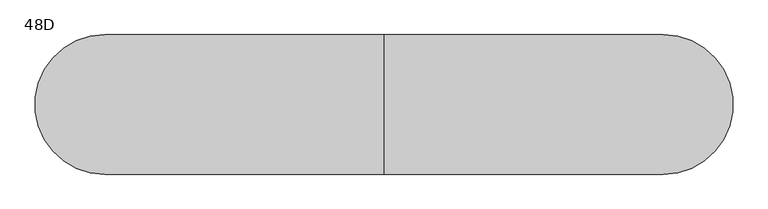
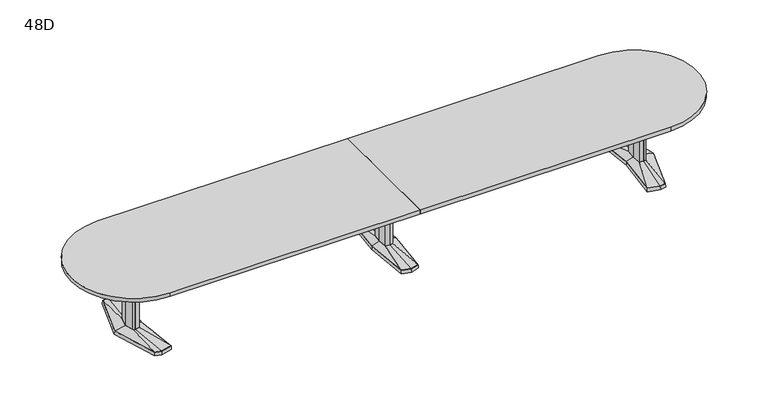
"""IFC4 building model written with IfcOpenShell, lengths in millimetres: furniture geometry, Coalesse_AM_Table_Conference_ETable2_Racetrack_20ft_AluminiumBase : 48D."""

from ifc_helpers import new_model, si_unit, point, frame, frame_2d, origin, place, context, project, spatial, polyline, circle_curve, trimmed, segment, composite_curve, outline, extrude, faceted_brep, source, transform, mapped, element, save
from ifc_brep_helpers import plane_surface, spline_surface, advanced_brep


def furniture_48d_e1b3172b(model_context):
    return source(origin(), model_context, "Body", "SolidModel", [
        faceted_brep([(-81.2333791, -433.8053819, 38.1), (0.0, -455.556576, 38.1), (81.2333791, -433.8053819, 38.1), (119.0564774, 0.0, 38.1), (81.2333791, 433.8053819, 38.1), (0.0, 455.556576, 38.1), (-81.2333791, 433.8053819, 38.1), (-119.0564774, 0.0, 38.1), (-82.7182795, -435.0512063, 3.175), (-120.65, 0.0, 3.175), (-82.7182795, 435.0512063, 3.175), (0.0, 457.2, 3.175), (82.7182795, 435.0512063, 3.175), (120.65, 0.0, 3.175), (82.7182795, -435.0512063, 3.175), (0.0, -457.2, 3.175), (0.0, 429.2617927, 3.175), (-77.9676806, 408.3850278, 3.175), (-74.7019821, 382.9646737, 3.175), (0.0, 402.9670094, 3.175), (74.7019821, 382.9646737, 3.175), (77.9676806, 408.3850278, 3.175), (0.0, -429.2617927, 3.175), (77.9676806, -408.3850278, 3.175), (74.7019821, -382.9646737, 3.175), (0.0, -402.9670094, 3.175), (-74.7019821, -382.9646737, 3.175), (-77.9676806, -408.3850278, 3.175), (-71.8574262, 114.6326257, 3.175), (-82.5426076, 0.0, 3.175), (-71.8574262, -114.6326257, 3.175), (0.0, -133.8761372, 3.175), (71.8574262, -114.6326257, 3.175), (82.5426076, 0.0, 3.175), (71.8574262, 114.6326257, 3.175), (0.0, 133.8761372, 3.175), (0.0, 429.2617927, 0.0), (77.9676806, 408.3850278, 0.0), (74.7019821, 382.9646737, 0.0), (0.0, 402.9670094, 0.0), (-74.7019821, 382.9646737, 0.0), (-77.9676806, 408.3850278, 0.0), (0.0, -429.2617927, 0.0), (-77.9676806, -408.3850278, 0.0), (-74.7019821, -382.9646737, 0.0), (0.0, -402.9670094, 0.0), (74.7019821, -382.9646737, 0.0), (77.9676806, -408.3850278, 0.0), (-71.8574262, 114.6326257, 0.0), (0.0, 133.8761372, 0.0), (71.8574262, 114.6326257, 0.0), (82.5426076, 0.0, 0.0), (71.8574262, -114.6326257, 0.0), (0.0, -133.8761372, 0.0), (-71.8574262, -114.6326257, 0.0), (-82.5426076, 0.0, 0.0)], [[[0, 1, 2, 3, 4, 5, 6, 7]], [[8, 9, 10, 11, 12, 13, 14, 15], [16, 17, 18, 19, 20, 21], [22, 23, 24, 25, 26, 27], [28, 29, 30, 31, 32, 33, 34, 35]], [[1, 0, 8, 15]], [[2, 1, 15, 14]], [[3, 2, 14, 13]], [[4, 3, 13, 12]], [[5, 4, 12, 11]], [[6, 5, 11, 10]], [[7, 6, 10, 9]], [[0, 7, 9, 8]], [[36, 37, 38, 39, 40, 41]], [[42, 43, 44, 45, 46, 47]], [[48, 49, 50, 51, 52, 53, 54, 55]], [[36, 41, 17, 16]], [[41, 40, 18, 17]], [[40, 39, 19, 18]], [[39, 38, 20, 19]], [[38, 37, 21, 20]], [[37, 36, 16, 21]], [[42, 47, 23, 22]], [[47, 46, 24, 23]], [[46, 45, 25, 24]], [[45, 44, 26, 25]], [[44, 43, 27, 26]], [[43, 42, 22, 27]], [[48, 55, 29, 28]], [[55, 54, 30, 29]], [[54, 53, 31, 30]], [[53, 52, 32, 31]], [[52, 51, 33, 32]], [[51, 50, 34, 33]], [[50, 49, 35, 34]], [[49, 48, 28, 35]]]),
        faceted_brep([(-36.3832834, 84.6900825, 698.5), (-44.2774487, 0.0, 698.5), (-36.3832834, -84.6900825, 698.5), (0.0, -94.4335728, 698.5), (36.3832834, -84.6900825, 698.5), (44.2774487, 0.0, 698.5), (36.3832834, 84.6900825, 698.5), (0.0, 94.4335728, 698.5), (-36.3832834, 84.6900825, 63.5), (0.0, 94.4335728, 63.5), (36.3832834, 84.6900825, 63.5), (44.2774487, 0.0, 63.5), (36.3832834, -84.6900825, 63.5), (0.0, -94.4335728, 63.5), (-36.3832834, -84.6900825, 63.5), (-44.2774487, 0.0, 63.5)], [[[0, 1, 2, 3, 4, 5, 6, 7]], [[8, 9, 10, 11, 12, 13, 14, 15]], [[1, 0, 8, 15]], [[2, 1, 15, 14]], [[3, 2, 14, 13]], [[4, 3, 13, 12]], [[5, 4, 12, 11]], [[6, 5, 11, 10]], [[7, 6, 10, 9]], [[0, 7, 9, 8]]]),
        advanced_brep(
        [(-36.3832834, 84.6900825, 63.5), (-44.2774487, 0.0, 63.5), (-36.3832834, -84.6900825, 63.5), (0.0, -94.4335728, 63.5), (36.3832834, -84.6900825, 63.5), (44.2774487, 0.0, 63.5), (36.3832834, 84.6900825, 63.5), (0.0, 94.4335728, 63.5), (-81.2333791, 433.8053819, 38.1), (0.0, 455.556576, 38.1), (81.2333791, 433.8053819, 38.1), (119.0564774, 0.0, 38.1), (81.2333791, -433.8053819, 38.1), (0.0, -455.556576, 38.1), (-81.2333791, -433.8053819, 38.1), (-119.0564774, 0.0, 38.1)],
        [
            (0, 1),
            (1, 2),
            (2, 3),
            (3, 4),
            (4, 5),
            (5, 6),
            (6, 7),
            (7, 0),
            (8, 9),
            (9, 10),
            (10, 11),
            (11, 12),
            (12, 13),
            (13, 14),
            (14, 15),
            (15, 8),
            (15, 1),
            (0, 8),
            (14, 2),
            (13, 3),
            (12, 4),
            (11, 5),
            (10, 6),
            (9, 7),
        ],
        [
            plane_surface(frame((0.0, 0.0, 63.5), z_axis=(0.0, 0.0, 1.0000000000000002), x_axis=(-0.9659615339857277, -0.25868574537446, 0.0))),
            plane_surface(frame((0.0, 0.0, 38.1), z_axis=(0.0, 0.0, -1.0000000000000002), x_axis=(-0.9659615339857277, -0.25868574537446, 0.0))),
            spline_surface(1, 1, [[(-81.2333791, 433.8053819, 38.1), (-36.3832834, 84.6900825, 63.5)], [(-119.0564774, 0.0, 38.1), (-44.2774487, 0.0, 63.5)]], [2, 2], [2, 2], [0.0, 1.0], [0.0, 1.0]),
            spline_surface(1, 1, [[(-119.0564774, 0.0, 38.1), (-44.2774487, 0.0, 63.5)], [(-81.2333791, -433.8053819, 38.1), (-36.3832834, -84.6900825, 63.5)]], [2, 2], [2, 2], [0.0, 1.0], [0.0, 1.0]),
            spline_surface(1, 1, [[(-81.2333791, -433.8053819, 38.1), (-36.3832834, -84.6900825, 63.5)], [(0.0, -455.556576, 38.1), (0.0, -94.4335728, 63.5)]], [2, 2], [2, 2], [0.0, 1.0], [0.0, 1.0]),
            spline_surface(1, 1, [[(0.0, -455.556576, 38.1), (0.0, -94.4335728, 63.5)], [(81.2333791, -433.8053819, 38.1), (36.3832834, -84.6900825, 63.5)]], [2, 2], [2, 2], [0.0, 1.0], [0.0, 1.0]),
            spline_surface(1, 1, [[(81.2333791, -433.8053819, 38.1), (36.3832834, -84.6900825, 63.5)], [(119.0564774, 0.0, 38.1), (44.2774487, 0.0, 63.5)]], [2, 2], [2, 2], [0.0, 1.0], [0.0, 1.0]),
            spline_surface(1, 1, [[(119.0564774, 0.0, 38.1), (44.2774487, 0.0, 63.5)], [(81.2333791, 433.8053819, 38.1), (36.3832834, 84.6900825, 63.5)]], [2, 2], [2, 2], [0.0, 1.0], [0.0, 1.0]),
            spline_surface(1, 1, [[(81.2333791, 433.8053819, 38.1), (36.3832834, 84.6900825, 63.5)], [(0.0, 455.556576, 38.1), (0.0, 94.4335728, 63.5)]], [2, 2], [2, 2], [0.0, 1.0], [0.0, 1.0]),
            spline_surface(1, 1, [[(0.0, 455.556576, 38.1), (0.0, 94.4335728, 63.5)], [(-81.2333791, 433.8053819, 38.1), (-36.3832834, 84.6900825, 63.5)]], [2, 2], [2, 2], [0.0, 1.0], [0.0, 1.0]),
        ],
        [
            (0, [[1, 2, 3, 4, 5, 6, 7, 8]]),
            (1, [[9, 10, 11, 12, 13, 14, 15, 16]]),
            (2, [[-16, 17, -1, 18]]),
            (3, [[-15, 19, -2, -17]]),
            (4, [[-14, 20, -3, -19]]),
            (5, [[-13, 21, -4, -20]]),
            (6, [[-12, 22, -5, -21]]),
            (7, [[-11, 23, -6, -22]]),
            (8, [[-10, 24, -7, -23]]),
            (9, [[-9, -18, -8, -24]]),
        ],
    ),
        faceted_brep([(2429.8306835, 455.5848221, 38.1), (2320.2531277, 426.2263816, 38.1), (2361.4163717, 0.0, 38.1), (2320.2531277, -426.2263816, 38.1), (2429.8306835, -455.5848221, 38.1), (2485.9570396, -440.5478297, 38.1), (2623.2684269, 0.0, 38.1), (2485.9570396, 440.5478297, 38.1), (2429.8306754, 457.2283104, 3.175), (2487.2124472, 441.8549756, 3.175), (2624.93125, 0.0, 3.175), (2487.2124472, -441.8549756, 3.175), (2429.8306754, -457.2283104, 3.175), (2318.54375, -427.4118891, 3.175), (2359.8214856, 0.0, 3.175), (2318.54375, 427.4118891, 3.175), (2433.420115, 428.3273875, 3.175), (2328.3718228, 402.1057253, 3.175), (2336.490518, 377.985069, 3.175), (2437.0095466, 401.0699529, 3.175), (2487.5691725, 387.524361, 3.175), (2486.7631061, 414.0360954, 3.175), (2433.420115, -428.3273875, 3.175), (2486.7631061, -414.0360954, 3.175), (2487.5691725, -387.524361, 3.175), (2437.0095466, -401.0699529, 3.175), (2336.490518, -377.985069, 3.175), (2328.3718228, -402.1057253, 3.175), (2560.0153621, 0.0, 3.175), (2527.7459611, 120.4193755, 3.175), (2479.0987222, 133.471665, 3.175), (2399.2180526, 119.4176561, 3.175), (2388.0868466, 0.0, 3.175), (2399.2180526, -119.4176561, 3.175), (2479.0987222, -133.471665, 3.175), (2527.7459611, -120.4193755, 3.175), (2433.420115, 428.3273875, 0.0), (2486.7631061, 414.0360954, 0.0), (2487.5691725, 387.524361, 0.0), (2437.0095466, 401.0699529, 0.0), (2336.490518, 377.985069, 0.0), (2328.3718228, 402.1057253, 0.0), (2433.420115, -428.3273875, 0.0), (2328.3718228, -402.1057253, 0.0), (2336.490518, -377.985069, 0.0), (2437.0095466, -401.0699529, 0.0), (2487.5691725, -387.524361, 0.0), (2486.7631061, -414.0360954, 0.0), (2560.0153621, 0.0, 0.0), (2527.7459611, -120.4193755, 0.0), (2479.0987222, -133.471665, 0.0), (2399.2180526, -119.4176561, 0.0), (2388.0868466, 0.0, 0.0), (2399.2180526, 119.4176561, 0.0), (2479.0987222, 133.471665, 0.0), (2527.7459611, 120.4193755, 0.0)], [[[0, 1, 2, 3, 4, 5, 6, 7]], [[8, 9, 10, 11, 12, 13, 14, 15], [16, 17, 18, 19, 20, 21], [22, 23, 24, 25, 26, 27], [28, 29, 30, 31, 32, 33, 34, 35]], [[7, 9, 8, 0]], [[6, 10, 9, 7]], [[5, 11, 10, 6]], [[4, 12, 11, 5]], [[3, 13, 12, 4]], [[2, 14, 13, 3]], [[1, 15, 14, 2]], [[0, 8, 15, 1]], [[36, 37, 38, 39, 40, 41]], [[42, 43, 44, 45, 46, 47]], [[48, 49, 50, 51, 52, 53, 54, 55]], [[36, 16, 21, 37]], [[37, 21, 20, 38]], [[38, 20, 19, 39]], [[39, 19, 18, 40]], [[40, 18, 17, 41]], [[41, 17, 16, 36]], [[42, 22, 27, 43]], [[43, 27, 26, 44]], [[44, 26, 25, 45]], [[45, 25, 24, 46]], [[46, 24, 23, 47]], [[47, 23, 22, 42]], [[48, 28, 35, 49]], [[49, 35, 34, 50]], [[50, 34, 33, 51]], [[51, 33, 32, 52]], [[52, 32, 31, 53]], [[53, 31, 30, 54]], [[54, 30, 29, 55]], [[55, 29, 28, 48]]]),
        faceted_brep([(2520.5710836, 0.0, 698.5), (2496.6358546, 89.3188359, 698.5), (2479.7824984, 93.8406728, 698.5), (2477.3826511, 94.4845635, 698.5), (2434.455146, 86.9320037, 698.5), (2426.3520056, 0.0, 698.5), (2434.455146, -86.9320037, 698.5), (2477.3826511, -94.4845635, 698.5), (2479.7824984, -93.8406728, 698.5), (2496.6358546, -89.3188359, 698.5), (2520.5710836, 0.0, 63.5), (2496.6358546, -89.3188359, 63.5), (2479.7824984, -93.8406728, 63.5), (2477.3826511, -94.4845635, 63.5), (2434.455146, -86.9320037, 63.5), (2426.3520056, 0.0, 63.5), (2434.455146, 86.9320037, 63.5), (2477.3826511, 94.4845635, 63.5), (2479.7824984, 93.8406728, 63.5), (2496.6358546, 89.3188359, 63.5)], [[[0, 1, 2, 3, 4, 5, 6, 7, 8, 9]], [[10, 11, 12, 13, 14, 15, 16, 17, 18, 19]], [[9, 11, 10, 0]], [[8, 12, 11, 9]], [[7, 13, 12, 8]], [[6, 14, 13, 7]], [[5, 15, 14, 6]], [[4, 16, 15, 5]], [[3, 17, 16, 4]], [[2, 18, 17, 3]], [[1, 19, 18, 2]], [[0, 10, 19, 1]]]),
        advanced_brep(
        [(2477.3826511, 94.4845635, 63.5), (2434.455146, 86.9320037, 63.5), (2426.3520056, 0.0, 63.5), (2434.455146, -86.9320037, 63.5), (2477.3826511, -94.4845635, 63.5), (2496.6358546, -89.3188359, 63.5), (2520.5710836, 0.0, 63.5), (2496.6358546, 89.3188359, 63.5), (2429.8306835, 455.5848221, 38.1), (2485.9570396, 440.5478297, 38.1), (2623.2684269, 0.0, 38.1), (2485.9570396, -440.5478297, 38.1), (2429.8306835, -455.5848221, 38.1), (2320.2531277, -426.2263816, 38.1), (2361.4163717, 0.0, 38.1), (2320.2531277, 426.2263816, 38.1)],
        [
            (0, 1),
            (1, 2),
            (2, 3),
            (3, 4),
            (4, 5),
            (5, 6),
            (6, 7),
            (7, 0),
            (8, 9),
            (9, 10),
            (10, 11),
            (11, 12),
            (12, 13),
            (13, 14),
            (14, 15),
            (15, 8),
            (8, 0),
            (7, 9),
            (6, 10),
            (5, 11),
            (4, 12),
            (3, 13),
            (2, 14),
            (1, 15),
        ],
        [
            plane_surface(frame((2470.4837991, 0.0, 63.5), z_axis=(0.0, 0.0, 1.0), x_axis=(-0.25884244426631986, -0.9659195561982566, 0.0))),
            plane_surface(frame((2432.0958125, 0.0, 38.1), z_axis=(0.0, 0.0, -1.0), x_axis=(-0.25884244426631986, -0.9659195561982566, 0.0))),
            spline_surface(1, 1, [[(2429.8306835, 455.5848221, 38.1), (2485.9570396, 440.5478297, 38.1)], [(2477.3826511, 94.4845635, 63.5), (2496.6358546, 89.3188359, 63.5)]], [2, 2], [2, 2], [0.0, 1.0], [0.0, 1.0]),
            spline_surface(1, 1, [[(2485.9570396, 440.5478297, 38.1), (2623.2684269, 0.0, 38.1)], [(2496.6358546, 89.3188359, 63.5), (2520.5710836, 0.0, 63.5)]], [2, 2], [2, 2], [0.0, 1.0], [0.0, 1.0]),
            spline_surface(1, 1, [[(2623.2684269, 0.0, 38.1), (2485.9570396, -440.5478297, 38.1)], [(2520.5710836, 0.0, 63.5), (2496.6358546, -89.3188359, 63.5)]], [2, 2], [2, 2], [0.0, 1.0], [0.0, 1.0]),
            spline_surface(1, 1, [[(2485.9570396, -440.5478297, 38.1), (2429.8306835, -455.5848221, 38.1)], [(2496.6358546, -89.3188359, 63.5), (2477.3826511, -94.4845635, 63.5)]], [2, 2], [2, 2], [0.0, 1.0], [0.0, 1.0]),
            spline_surface(1, 1, [[(2429.8306835, -455.5848221, 38.1), (2320.2531277, -426.2263816, 38.1)], [(2477.3826511, -94.4845635, 63.5), (2434.455146, -86.9320037, 63.5)]], [2, 2], [2, 2], [0.0, 1.0], [0.0, 1.0]),
            spline_surface(1, 1, [[(2320.2531277, -426.2263816, 38.1), (2361.4163717, 0.0, 38.1)], [(2434.455146, -86.9320037, 63.5), (2426.3520056, 0.0, 63.5)]], [2, 2], [2, 2], [0.0, 1.0], [0.0, 1.0]),
            spline_surface(1, 1, [[(2361.4163717, 0.0, 38.1), (2320.2531277, 426.2263816, 38.1)], [(2426.3520056, 0.0, 63.5), (2434.455146, 86.9320037, 63.5)]], [2, 2], [2, 2], [0.0, 1.0], [0.0, 1.0]),
            spline_surface(1, 1, [[(2320.2531277, 426.2263816, 38.1), (2429.8306835, 455.5848221, 38.1)], [(2434.455146, 86.9320037, 63.5), (2477.3826511, 94.4845635, 63.5)]], [2, 2], [2, 2], [0.0, 1.0], [0.0, 1.0]),
        ],
        [
            (0, [[1, 2, 3, 4, 5, 6, 7, 8]]),
            (1, [[9, 10, 11, 12, 13, 14, 15, 16]]),
            (2, [[17, -8, 18, -9]]),
            (3, [[-18, -7, 19, -10]]),
            (4, [[-19, -6, 20, -11]]),
            (5, [[-20, -5, 21, -12]]),
            (6, [[-21, -4, 22, -13]]),
            (7, [[-22, -3, 23, -14]]),
            (8, [[-23, -2, 24, -15]]),
            (9, [[-24, -1, -17, -16]]),
        ],
    ),
        faceted_brep([(-2429.8306835, 455.5848221, 38.1), (-2485.9570396, 440.5478297, 38.1), (-2623.2684269, 0.0, 38.1), (-2485.9570396, -440.5478297, 38.1), (-2429.8306835, -455.5848221, 38.1), (-2320.2531277, -426.2263816, 38.1), (-2361.4163717, 0.0, 38.1), (-2320.2531277, 426.2263816, 38.1), (-2429.8306754, 457.2283104, 3.175), (-2318.54375, 427.4118891, 3.175), (-2359.8214856, 0.0, 3.175), (-2318.54375, -427.4118891, 3.175), (-2429.8306754, -457.2283104, 3.175), (-2487.2124472, -441.8549756, 3.175), (-2624.93125, 0.0, 3.175), (-2487.2124472, 441.8549756, 3.175), (-2433.420115, 428.3273875, 3.175), (-2486.7631061, 414.0360954, 3.175), (-2487.5691725, 387.524361, 3.175), (-2437.0095466, 401.0699529, 3.175), (-2336.490518, 377.985069, 3.175), (-2328.3718228, 402.1057253, 3.175), (-2433.420115, -428.3273875, 3.175), (-2328.3718228, -402.1057253, 3.175), (-2336.490518, -377.985069, 3.175), (-2437.0095466, -401.0699529, 3.175), (-2487.5691725, -387.524361, 3.175), (-2486.7631061, -414.0360954, 3.175), (-2560.0153621, 0.0, 3.175), (-2527.7459611, -120.4193755, 3.175), (-2479.0987222, -133.471665, 3.175), (-2399.2180526, -119.4176561, 3.175), (-2388.0868466, 0.0, 3.175), (-2399.2180526, 119.4176561, 3.175), (-2479.0987222, 133.471665, 3.175), (-2527.7459611, 120.4193755, 3.175), (-2433.420115, 428.3273875, 0.0), (-2328.3718228, 402.1057253, 0.0), (-2336.490518, 377.985069, 0.0), (-2437.0095466, 401.0699529, 0.0), (-2487.5691725, 387.524361, 0.0), (-2486.7631061, 414.0360954, 0.0), (-2433.420115, -428.3273875, 0.0), (-2486.7631061, -414.0360954, 0.0), (-2487.5691725, -387.524361, 0.0), (-2437.0095466, -401.0699529, 0.0), (-2336.490518, -377.985069, 0.0), (-2328.3718228, -402.1057253, 0.0), (-2560.0153621, 0.0, 0.0), (-2527.7459611, 120.4193755, 0.0), (-2479.0987222, 133.471665, 0.0), (-2399.2180526, 119.4176561, 0.0), (-2388.0868466, 0.0, 0.0), (-2399.2180526, -119.4176561, 0.0), (-2479.0987222, -133.471665, 0.0), (-2527.7459611, -120.4193755, 0.0)], [[[0, 1, 2, 3, 4, 5, 6, 7]], [[8, 9, 10, 11, 12, 13, 14, 15], [16, 17, 18, 19, 20, 21], [22, 23, 24, 25, 26, 27], [28, 29, 30, 31, 32, 33, 34, 35]], [[1, 0, 8, 15]], [[2, 1, 15, 14]], [[3, 2, 14, 13]], [[4, 3, 13, 12]], [[5, 4, 12, 11]], [[6, 5, 11, 10]], [[7, 6, 10, 9]], [[0, 7, 9, 8]], [[36, 37, 38, 39, 40, 41]], [[42, 43, 44, 45, 46, 47]], [[48, 49, 50, 51, 52, 53, 54, 55]], [[36, 41, 17, 16]], [[41, 40, 18, 17]], [[40, 39, 19, 18]], [[39, 38, 20, 19]], [[38, 37, 21, 20]], [[37, 36, 16, 21]], [[42, 47, 23, 22]], [[47, 46, 24, 23]], [[46, 45, 25, 24]], [[45, 44, 26, 25]], [[44, 43, 27, 26]], [[43, 42, 22, 27]], [[48, 55, 29, 28]], [[55, 54, 30, 29]], [[54, 53, 31, 30]], [[53, 52, 32, 31]], [[52, 51, 33, 32]], [[51, 50, 34, 33]], [[50, 49, 35, 34]], [[49, 48, 28, 35]]]),
        faceted_brep([(-2520.5710836, 0.0, 698.5), (-2496.6358546, -89.3188359, 698.5), (-2479.7824984, -93.8406728, 698.5), (-2477.3826511, -94.4845635, 698.5), (-2434.455146, -86.9320037, 698.5), (-2426.3520056, 0.0, 698.5), (-2434.455146, 86.9320037, 698.5), (-2477.3826511, 94.4845635, 698.5), (-2479.7824984, 93.8406728, 698.5), (-2496.6358546, 89.3188359, 698.5), (-2520.5710836, 0.0, 63.5), (-2496.6358546, 89.3188359, 63.5), (-2479.7824984, 93.8406728, 63.5), (-2477.3826511, 94.4845635, 63.5), (-2434.455146, 86.9320037, 63.5), (-2426.3520056, 0.0, 63.5), (-2434.455146, -86.9320037, 63.5), (-2477.3826511, -94.4845635, 63.5), (-2479.7824984, -93.8406728, 63.5), (-2496.6358546, -89.3188359, 63.5)], [[[0, 1, 2, 3, 4, 5, 6, 7, 8, 9]], [[10, 11, 12, 13, 14, 15, 16, 17, 18, 19]], [[1, 0, 10, 19]], [[2, 1, 19, 18]], [[3, 2, 18, 17]], [[4, 3, 17, 16]], [[5, 4, 16, 15]], [[6, 5, 15, 14]], [[7, 6, 14, 13]], [[8, 7, 13, 12]], [[9, 8, 12, 11]], [[0, 9, 11, 10]]]),
        advanced_brep(
        [(-2477.3826511, 94.4845635, 63.5), (-2496.6358546, 89.3188359, 63.5), (-2520.5710836, 0.0, 63.5), (-2496.6358546, -89.3188359, 63.5), (-2477.3826511, -94.4845635, 63.5), (-2434.455146, -86.9320037, 63.5), (-2426.3520056, 0.0, 63.5), (-2434.455146, 86.9320037, 63.5), (-2429.8306835, 455.5848221, 38.1), (-2320.2531277, 426.2263816, 38.1), (-2361.4163717, 0.0, 38.1), (-2320.2531277, -426.2263816, 38.1), (-2429.8306835, -455.5848221, 38.1), (-2485.9570396, -440.5478297, 38.1), (-2623.2684269, 0.0, 38.1), (-2485.9570396, 440.5478297, 38.1)],
        [
            (0, 1),
            (1, 2),
            (2, 3),
            (3, 4),
            (4, 5),
            (5, 6),
            (6, 7),
            (7, 0),
            (8, 9),
            (9, 10),
            (10, 11),
            (11, 12),
            (12, 13),
            (13, 14),
            (14, 15),
            (15, 8),
            (15, 1),
            (0, 8),
            (14, 2),
            (13, 3),
            (12, 4),
            (11, 5),
            (10, 6),
            (9, 7),
        ],
        [
            plane_surface(frame((-2470.4837991, 0.0, 63.5), z_axis=(0.0, 0.0, 1.0), x_axis=(0.25884244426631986, -0.9659195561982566, 0.0))),
            plane_surface(frame((-2432.0958125, 0.0, 38.1), z_axis=(0.0, 0.0, -1.0), x_axis=(0.25884244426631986, -0.9659195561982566, 0.0))),
            spline_surface(1, 1, [[(-2429.8306835, 455.5848221, 38.1), (-2477.3826511, 94.4845635, 63.5)], [(-2485.9570396, 440.5478297, 38.1), (-2496.6358546, 89.3188359, 63.5)]], [2, 2], [2, 2], [0.0, 1.0], [0.0, 1.0]),
            spline_surface(1, 1, [[(-2485.9570396, 440.5478297, 38.1), (-2496.6358546, 89.3188359, 63.5)], [(-2623.2684269, 0.0, 38.1), (-2520.5710836, 0.0, 63.5)]], [2, 2], [2, 2], [0.0, 1.0], [0.0, 1.0]),
            spline_surface(1, 1, [[(-2623.2684269, 0.0, 38.1), (-2520.5710836, 0.0, 63.5)], [(-2485.9570396, -440.5478297, 38.1), (-2496.6358546, -89.3188359, 63.5)]], [2, 2], [2, 2], [0.0, 1.0], [0.0, 1.0]),
            spline_surface(1, 1, [[(-2485.9570396, -440.5478297, 38.1), (-2496.6358546, -89.3188359, 63.5)], [(-2429.8306835, -455.5848221, 38.1), (-2477.3826511, -94.4845635, 63.5)]], [2, 2], [2, 2], [0.0, 1.0], [0.0, 1.0]),
            spline_surface(1, 1, [[(-2429.8306835, -455.5848221, 38.1), (-2477.3826511, -94.4845635, 63.5)], [(-2320.2531277, -426.2263816, 38.1), (-2434.455146, -86.9320037, 63.5)]], [2, 2], [2, 2], [0.0, 1.0], [0.0, 1.0]),
            spline_surface(1, 1, [[(-2320.2531277, -426.2263816, 38.1), (-2434.455146, -86.9320037, 63.5)], [(-2361.4163717, 0.0, 38.1), (-2426.3520056, 0.0, 63.5)]], [2, 2], [2, 2], [0.0, 1.0], [0.0, 1.0]),
            spline_surface(1, 1, [[(-2361.4163717, 0.0, 38.1), (-2426.3520056, 0.0, 63.5)], [(-2320.2531277, 426.2263816, 38.1), (-2434.455146, 86.9320037, 63.5)]], [2, 2], [2, 2], [0.0, 1.0], [0.0, 1.0]),
            spline_surface(1, 1, [[(-2320.2531277, 426.2263816, 38.1), (-2434.455146, 86.9320037, 63.5)], [(-2429.8306835, 455.5848221, 38.1), (-2477.3826511, 94.4845635, 63.5)]], [2, 2], [2, 2], [0.0, 1.0], [0.0, 1.0]),
        ],
        [
            (0, [[1, 2, 3, 4, 5, 6, 7, 8]]),
            (1, [[9, 10, 11, 12, 13, 14, 15, 16]]),
            (2, [[-16, 17, -1, 18]]),
            (3, [[-15, 19, -2, -17]]),
            (4, [[-14, 20, -3, -19]]),
            (5, [[-13, 21, -4, -20]]),
            (6, [[-12, 22, -5, -21]]),
            (7, [[-11, 23, -6, -22]]),
            (8, [[-10, 24, -7, -23]]),
            (9, [[-9, -18, -8, -24]]),
        ],
    ),
        extrude(outline(polyline([(96.8375, 698.5), (103.1875, 698.5), (103.1875, 476.25), (-103.1875, 476.25), (-103.1875, 698.5), (-96.8375, 698.5), (-96.8375, 482.6), (96.8375, 482.6), (96.8375, 698.5)])), frame((44.2774487, 0.0, 0.0), z_axis=(1.0, 0.0, 0.0), x_axis=(0.0, 1.0, 0.0)), (0.0, 0.0, 1.0), 2382.2163013),
        extrude(outline(composite_curve([segment(trimmed(circle_curve(frame_2d((2438.4, 0.0)), 609.6), [point((2438.4, 609.6))], [point((2438.4, -609.6))], False, "CARTESIAN"), True, "CONTINUOUS"), segment(polyline([(2438.4, -609.6), (0.0, -609.6), (0.0, 609.6), (2438.4, 609.6)]), True, "CONTINUOUS")], self_intersect=False)), frame((0.0, 0.0, 698.5), z_axis=(0.0, 0.0, 1.0), x_axis=(1.0, 0.0, 0.0)), (0.0, 0.0, 1.0), 38.1),
        extrude(outline(composite_curve([segment(polyline([(0.0, 609.6), (0.0, -609.6), (-2438.4, -609.6)]), True, "CONTINUOUS"), segment(trimmed(circle_curve(frame_2d((-2438.4, 0.0)), 609.6), [point((-2438.4, -609.6))], [point((-2438.4, 609.6))], False, "CARTESIAN"), True, "CONTINUOUS"), segment(polyline([(-2438.4, 609.6), (0.0, 609.6)]), True, "CONTINUOUS")], self_intersect=False)), frame((0.0, 0.0, 698.5), z_axis=(0.0, 0.0, 1.0), x_axis=(1.0, 0.0, 0.0)), (0.0, 0.0, 1.0), 38.1),
        extrude(outline(polyline([(96.8375, 698.5), (103.1875, 698.5), (103.1875, 476.25), (-103.1875, 476.25), (-103.1875, 698.5), (-96.8375, 698.5), (-96.8375, 482.6), (96.8375, 482.6), (96.8375, 698.5)])), frame((-2426.49375, 0.0, 0.0), z_axis=(1.0, 0.0, 0.0), x_axis=(0.0, 1.0, 0.0)), (0.0, 0.0, 1.0), 2382.2163013),
    ])


if __name__ == "__main__":
    model = new_model("IFC4")
    model_context = context("Model", 3, world=origin())
    ifc_project = project(units=[si_unit("LENGTHUNIT", "METRE", prefix="MILLI")], contexts=[model_context])
    site = spatial("IfcSite", under=ifc_project)
    building = spatial("IfcBuilding", under=site)
    placement = place(None, origin())
    furniture_48d_shape = furniture_48d_e1b3172b(model_context)
    element("IfcFurniture", 1, ObjectType="Coalesse_AM_Table_Conference_ETable2_Racetrack_20ft_AluminiumBase : 48D", at=placement, inside=building, context=model_context, shape_type="MappedRepresentation", body=[
        mapped(furniture_48d_shape, transform((0.0, 0.0, 0.0), x_axis=(1.0, 0.0, 0.0), y_axis=(0.0, 1.0, 0.0), z_axis=(0.0, 0.0, 1.0))),
    ])
    save(model, "model.ifc")
